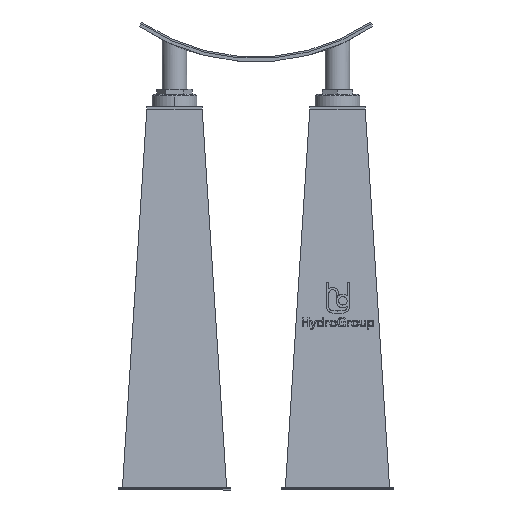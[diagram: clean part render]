
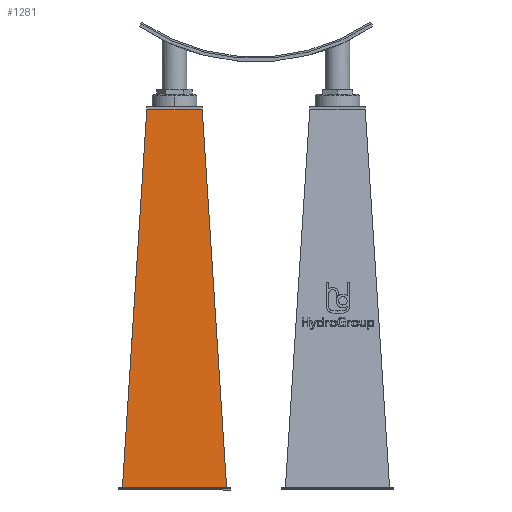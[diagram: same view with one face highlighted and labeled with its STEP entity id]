
A CAD part, front view. The second image highlights one B-rep face of the part: STEP entity #1281.
In plain terms, the highlighted planar face has unit normal (0, -0.998, 0.064).
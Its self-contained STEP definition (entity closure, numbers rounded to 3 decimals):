
#1281=ADVANCED_FACE('',(#2592),#2593,.F.);
#2592=FACE_OUTER_BOUND('',#4017,.T.);
#2593=PLANE('',#4018);
#4017=EDGE_LOOP('',(#7964,#7965,#7966,#7967));
#4018=AXIS2_PLACEMENT_3D('',#7968,#7969,#7970);
#7964=ORIENTED_EDGE('',*,*,#9691,.T.);
#7965=ORIENTED_EDGE('',*,*,#9707,.F.);
#7966=ORIENTED_EDGE('',*,*,#9717,.F.);
#7967=ORIENTED_EDGE('',*,*,#9445,.T.);
#7968=CARTESIAN_POINT('',(319.64,460.693,360.939));
#7969=DIRECTION('',(0.,0.998,-0.064));
#7970=DIRECTION('',(1.0,0.,0.));
#9445=EDGE_CURVE('',#11441,#11439,#11442,.F.);
#9691=EDGE_CURVE('',#11439,#11765,#11767,.T.);
#9707=EDGE_CURVE('',#11787,#11765,#11789,.T.);
#9717=EDGE_CURVE('',#11441,#11787,#11802,.T.);
#11439=VERTEX_POINT('',#14924);
#11441=VERTEX_POINT('',#14927);
#11442=LINE('',#14928,#14929);
#11765=VERTEX_POINT('',#15514);
#11767=LINE('',#15517,#15518);
#11787=VERTEX_POINT('',#15547);
#11789=LINE('',#15550,#15551);
#11802=LINE('',#15570,#15571);
#14924=CARTESIAN_POINT('',(126.827,400.874,-568.254));
#14927=CARTESIAN_POINT('',(186.634,460.681,360.746));
#14928=CARTESIAN_POINT('',(186.925,460.973,365.28));
#14929=VECTOR('',#17627,1.);
#15514=CARTESIAN_POINT('',(382.453,400.874,-568.254));
#15517=CARTESIAN_POINT('',(287.14,400.874,-568.254));
#15518=VECTOR('',#17803,1.0);
#15547=CARTESIAN_POINT('',(322.646,460.681,360.746));
#15550=CARTESIAN_POINT('',(322.354,460.973,365.28));
#15551=VECTOR('',#17814,1.);
#15570=CARTESIAN_POINT('',(287.14,460.681,360.746));
#15571=VECTOR('',#17821,1.0);
#17627=DIRECTION('',(0.064,0.064,0.996));
#17803=DIRECTION('',(1.0,0.,0.));
#17814=DIRECTION('',(0.064,-0.064,-0.996));
#17821=DIRECTION('',(1.0,0.,0.));
